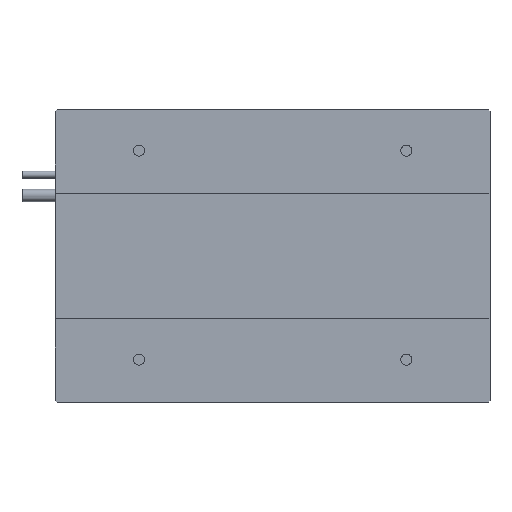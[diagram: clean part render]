
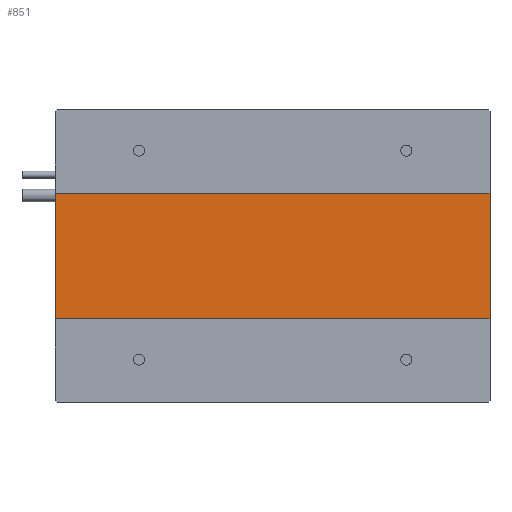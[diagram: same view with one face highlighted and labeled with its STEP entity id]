
A CAD part, front view. The second image highlights one B-rep face of the part: STEP entity #851.
In plain terms, the highlighted planar face has unit normal (0, -1, 0).
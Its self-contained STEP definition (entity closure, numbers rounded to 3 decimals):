
#359 = VECTOR ( 'NONE', #1571, 1000. ) ;
#381 = LINE ( 'NONE', #576, #359 ) ;
#486 = VECTOR ( 'NONE', #2036, 1000. ) ;
#492 = LINE ( 'NONE', #5565, #486 ) ;
#576 = CARTESIAN_POINT ( 'NONE',  ( 260., 1., -37.5 ) ) ;
#851 = ADVANCED_FACE ( 'NONE', ( #2285 ), #3777, .F. ) ;
#1202 = CARTESIAN_POINT ( 'NONE',  ( 260., 1., 37.5 ) ) ;
#1272 = ORIENTED_EDGE ( 'NONE', *, *, #3380, .T. ) ;
#1400 = DIRECTION ( 'NONE',  ( -1., 0., 0. ) ) ;
#1437 = CARTESIAN_POINT ( 'NONE',  ( 0., 1., 37.5 ) ) ;
#1571 = DIRECTION ( 'NONE',  ( 0., 0., 1. ) ) ;
#1833 = VECTOR ( 'NONE', #1400, 1000. ) ;
#1866 = LINE ( 'NONE', #1437, #1833 ) ;
#2036 = DIRECTION ( 'NONE',  ( 1., 0., 0. ) ) ;
#2196 = VERTEX_POINT ( 'NONE', #4540 ) ;
#2206 = AXIS2_PLACEMENT_3D ( 'NONE', #2634, #3446, #2915 ) ;
#2285 = FACE_OUTER_BOUND ( 'NONE', #5015, .T. ) ;
#2492 = VERTEX_POINT ( 'NONE', #5416 ) ;
#2526 = CARTESIAN_POINT ( 'NONE',  ( 0., 1., 37.5 ) ) ;
#2634 = CARTESIAN_POINT ( 'NONE',  ( 0., 1., 37.5 ) ) ;
#2645 = EDGE_CURVE ( 'NONE', #4824, #2492, #3144, .T. ) ;
#2657 = ORIENTED_EDGE ( 'NONE', *, *, #4128, .T. ) ;
#2915 = DIRECTION ( 'NONE',  ( 0., 0., 1. ) ) ;
#2999 = VECTOR ( 'NONE', #5639, 1000. ) ;
#3144 = LINE ( 'NONE', #5633, #2999 ) ;
#3380 = EDGE_CURVE ( 'NONE', #3521, #4824, #1866, .T. ) ;
#3446 = DIRECTION ( 'NONE',  ( 0., 1., 0. ) ) ;
#3521 = VERTEX_POINT ( 'NONE', #1202 ) ;
#3777 = PLANE ( 'NONE',  #2206 ) ;
#3905 = ORIENTED_EDGE ( 'NONE', *, *, #2645, .T. ) ;
#4106 = EDGE_CURVE ( 'NONE', #2492, #2196, #492, .T. ) ;
#4128 = EDGE_CURVE ( 'NONE', #2196, #3521, #381, .T. ) ;
#4540 = CARTESIAN_POINT ( 'NONE',  ( 260., 1., -37.5 ) ) ;
#4824 = VERTEX_POINT ( 'NONE', #2526 ) ;
#5015 = EDGE_LOOP ( 'NONE', ( #3905, #5408, #2657, #1272 ) ) ;
#5408 = ORIENTED_EDGE ( 'NONE', *, *, #4106, .T. ) ;
#5416 = CARTESIAN_POINT ( 'NONE',  ( 0., 1., -37.5 ) ) ;
#5565 = CARTESIAN_POINT ( 'NONE',  ( 0., 1., -37.5 ) ) ;
#5633 = CARTESIAN_POINT ( 'NONE',  ( 0., 1., -37.5 ) ) ;
#5639 = DIRECTION ( 'NONE',  ( 0., 0., -1. ) ) ;
